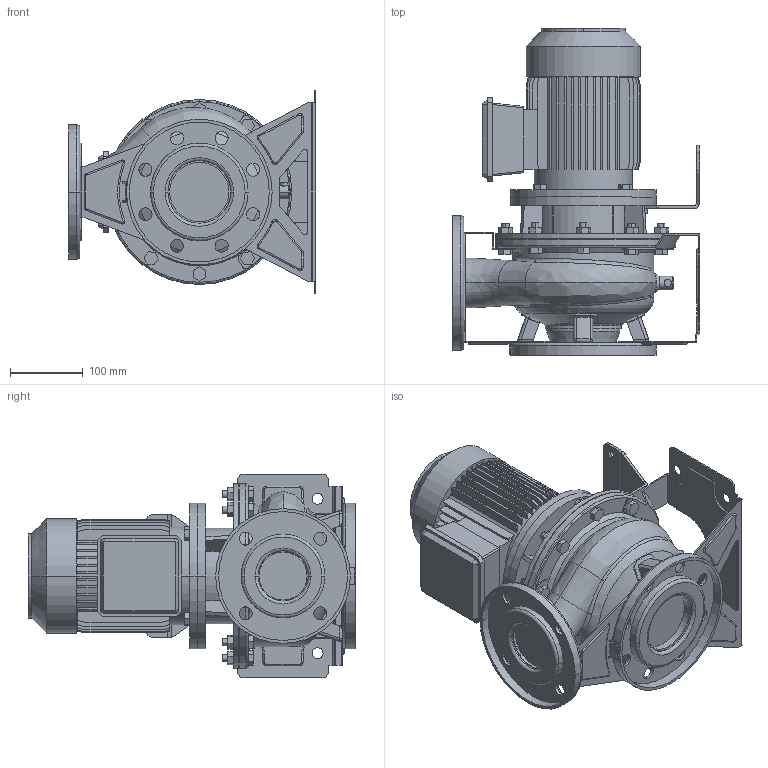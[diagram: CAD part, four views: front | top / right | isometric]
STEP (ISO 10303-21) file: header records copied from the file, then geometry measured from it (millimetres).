
FILE_DESCRIPTION((''),'2;1');
FILE_NAME('3S4_65-125_0_55_IE1_ASM','2016-09-24T',('rosa'),('"Ebara Pumps Europe +39.444.706811"'),'PRO/ENGINEER BY PARAMETRIC TECHNOLOGY CORPORATION, 2012130','PRO/ENGINEER BY PARAMETRIC TECHNOLOGY CORPORATION, 2012130','');
FILE_SCHEMA(('AUTOMOTIVE_DESIGN { 1 0 10303 214 1 1 1 1 }'));
Length unit declared in the file: millimetre
Products named in the file (11): MOTORE_80_0_55_KW_4POLI_B5; SUPPORTO_3S_190_80; SOSTEGNO_3S_72020; CORPO_65-125_AF0; ASP_65-125; FLANGIA_DIN_80_8_FORI; MAND_65-125; FLANGIA_DIN_65; BASE_3M_65-125; CORPO_SALDATO_65-125_ASM; 3S4_65-125_0_55_IE1_ASM
Assembly tree (10 placements, depth 3):
  3S4_65-125_0_55_IE1_ASM
    MOTORE_80_0_55_KW_4POLI_B5
    SUPPORTO_3S_190_80
    SOSTEGNO_3S_72020
    CORPO_SALDATO_65-125_ASM
      CORPO_65-125_AF0
      ASP_65-125
      FLANGIA_DIN_80_8_FORI
      MAND_65-125
      FLANGIA_DIN_65
      BASE_3M_65-125
Bounding box: 340 x 450 x 280 mm (x, y, z)
Volume: 9966507.7 mm3; surface area: 1185401.9 mm2
Topology: 12 solids, 12 shells, 1127 faces, 2908 edges, 1906 vertices
Faces by surface type: plane 694, cylinder 304, torus 54, bspline 33, cone 28, sphere 14
Entity records: 49782 total; most frequent: CARTESIAN_POINT 11043, DIRECTION 5907, ORIENTED_EDGE 5816, EDGE_CURVE 2908, PRESENTATION_STYLE_ASSIGNMENT 2779, STYLED_ITEM 2779, CURVE_STYLE 2768, AXIS2_PLACEMENT_3D 2005
